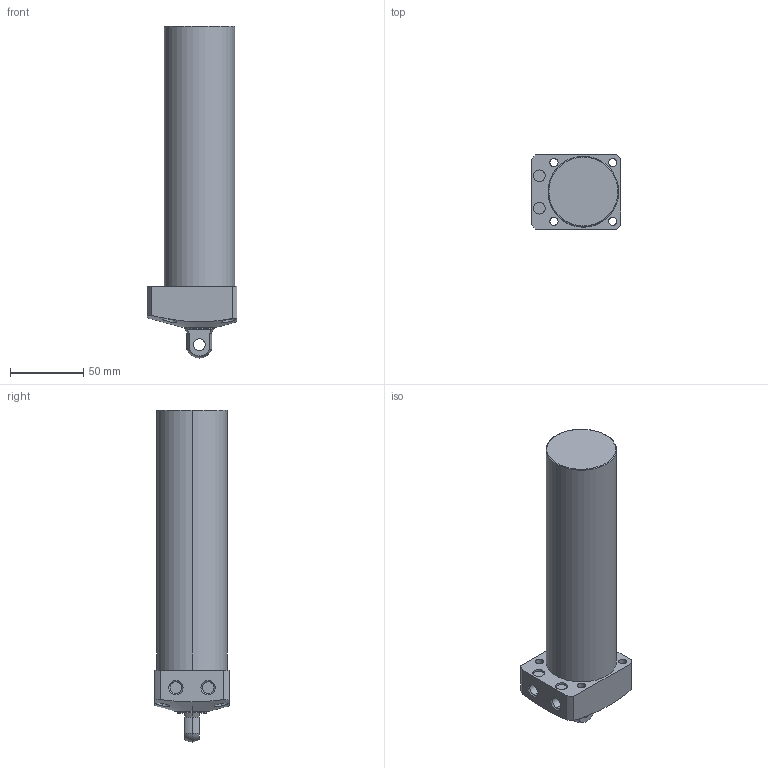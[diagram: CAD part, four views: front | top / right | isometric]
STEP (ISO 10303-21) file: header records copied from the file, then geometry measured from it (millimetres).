
FILE_DESCRIPTION (( 'STEP AP203' ), '1' );
FILE_NAME ('CLL-048CP-150.STEP', '2019-12-21T07:03:46', ( '' ), ( '' ), 'SwSTEP 2.0', 'SolidWorks 2015', '' );
FILE_SCHEMA (( 'CONFIG_CONTROL_DESIGN' ));
Length unit declared in the file: millimetre
Products named in the file (1): CLL-048CP-150
Bounding box: 61 x 51 x 226 mm (x, y, z)
Volume: 395629.6 mm3; surface area: 41510.4 mm2
Topology: 1 solids, 1 shells, 68 faces, 159 edges, 103 vertices
Faces by surface type: cylinder 35, plane 21, cone 8, sphere 2, torus 2
Entity records: 2390 total; most frequent: CARTESIAN_POINT 693, DIRECTION 357, ORIENTED_EDGE 318, EDGE_CURVE 159, AXIS2_PLACEMENT_3D 149, VERTEX_POINT 103, EDGE_LOOP 88, CIRCLE 80
